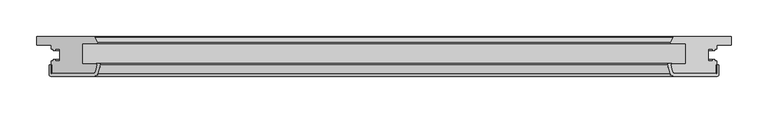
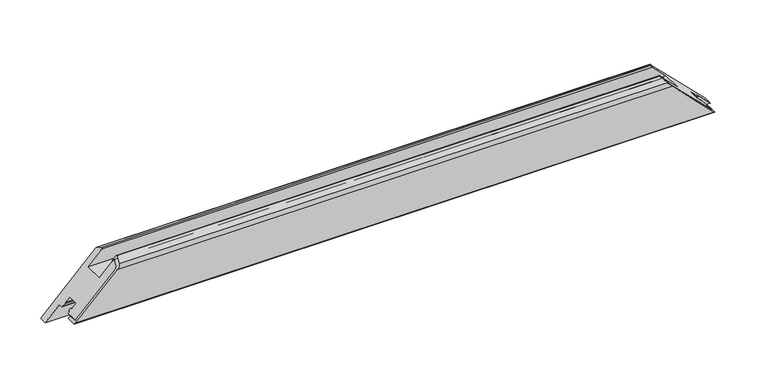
"""IFC4 building model written with IfcOpenShell, lengths in millimetres: proxy geometry, Weiku - Montante - Folha 02.2.01.017 : Weiku - Montante - Folha 02.2.01.017."""

import ifcopenshell
import ifcopenshell.guid

model = None  # the IFC model being written
_history = None  # IfcOwnerHistory: only IFC2X3 demands one
_inside = {}  # id of a spatial element -> (the spatial element, [elements in it])
_under = {}  # id of a project, library or spatial element -> (it, [spatial elements below it])
_declared = {}  # id of a project -> (the project, [libraries it declares])
_typed = {}  # id of a type object -> (the type object, [elements of that type])
_made_of = {}  # id of a material, layer set ... -> (it, [elements and type objects made of it])


def new_model(schema):
    """Start an empty IFC model of exactly this schema.

    Asked for "IFC4X3", IfcOpenShell would pick the latest addendum, in which some entities
    have other attributes; the version numbers below select the first issue.
    IFC2X3 requires an IfcOwnerHistory on every rooted entity: one is made here for all.
    """
    global model, _history
    if schema == "IFC4X3":
        model = ifcopenshell.file(schema_version=(4, 3, 0, 0))
    else:
        model = ifcopenshell.file(schema=schema)
    _inside.clear()
    _under.clear()
    _declared.clear()
    _typed.clear()
    _made_of.clear()
    _history = None
    if model.schema == "IFC2X3":
        org = make("IfcOrganization", Name="unknown")
        user = make(
            "IfcPersonAndOrganization",
            ThePerson=make("IfcPerson", FamilyName="unknown"),
            TheOrganization=org,
        )
        app = make(
            "IfcApplication",
            ApplicationDeveloper=org,
            Version="unknown",
            ApplicationFullName="unknown",
            ApplicationIdentifier="unknown",
        )
        _history = make(
            "IfcOwnerHistory",
            OwningUser=user,
            OwningApplication=app,
            ChangeAction="ADDED",
            CreationDate=0,
        )
    return model


def make(cls, **values):
    """One entity of the class cls with the attributes given. An attribute that is None is left unset."""
    return model.create_entity(
        cls, **{name: value for name, value in values.items() if value is not None}
    )


def rooted(cls, **values):
    """An entity with a GlobalId (a new one), such as an element, a storey or a relation."""
    return make(cls, GlobalId=ifcopenshell.guid.new(), OwnerHistory=_history, **values)


def si_unit(unit_type, name, prefix=None):
    """IfcSIUnit, for example si_unit("LENGTHUNIT", "METRE", prefix="MILLI")."""
    return make("IfcSIUnit", UnitType=unit_type, Prefix=prefix, Name=name)


def assignment(units):
    """IfcUnitAssignment: the units of a project."""
    return None if units is None else make("IfcUnitAssignment", Units=units)


def point(xyz):
    """IfcCartesianPoint."""
    return None if xyz is None else make("IfcCartesianPoint", Coordinates=xyz)


def direction(xyz):
    """IfcDirection."""
    return None if xyz is None else make("IfcDirection", DirectionRatios=xyz)


def frame(location, z_axis=None, x_axis=None):
    """IfcAxis2Placement3D, a coordinate frame: its origin and axes. An axis left out is left unset."""
    return make(
        "IfcAxis2Placement3D",
        Location=point(location),
        Axis=direction(z_axis),
        RefDirection=direction(x_axis),
    )


def origin():
    """The frame at (0, 0, 0) with its axes left unset."""
    return frame((0.0, 0.0, 0.0))


def place(relative_to, where):
    """IfcLocalPlacement: puts the frame where relative to a parent placement (None: the world)."""
    return make(
        "IfcLocalPlacement", PlacementRelTo=relative_to, RelativePlacement=where
    )


def context(
    kind, dimensions, precision=None, world=None, true_north=None, identifier=None
):
    """IfcGeometricRepresentationContext, for example the 3D "Model" context."""
    return make(
        "IfcGeometricRepresentationContext",
        ContextIdentifier=identifier,
        ContextType=kind,
        CoordinateSpaceDimension=dimensions,
        Precision=precision,
        WorldCoordinateSystem=world,
        TrueNorth=true_north,
    )


def project(units=None, contexts=None):
    """IfcProject with its units and contexts."""
    return rooted(
        "IfcProject",
        Name="project",
        RepresentationContexts=contexts,
        UnitsInContext=assignment(units),
    )


def spatial(cls, under=None, at=None, **own):
    """A site, building, storey or space (cls), placed at a placement, below another one or the project."""
    s = rooted(cls, ObjectPlacement=at, **own)
    if under is not None:
        _under.setdefault(under.id(), (under, []))[1].append(s)
    return s


def polyline(points):
    """IfcPolyline through the points."""
    return make("IfcPolyline", Points=[point(p) for p in points])


def ellipse_curve(where, semi_axis1, semi_axis2):
    """IfcEllipse in the frame where."""
    return make(
        "IfcEllipse", Position=where, SemiAxis1=semi_axis1, SemiAxis2=semi_axis2
    )


def shape(context_of_items, identifier, shape_type, items):
    """IfcShapeRepresentation: the items that make up one representation, for example the "Body"."""
    return make(
        "IfcShapeRepresentation",
        ContextOfItems=context_of_items,
        RepresentationIdentifier=identifier,
        RepresentationType=shape_type,
        Items=items,
    )


def source(mapping_origin, context_of_items, identifier, shape_type, items):
    """IfcRepresentationMap: a shape defined once, which mapped items show again and again."""
    return make(
        "IfcRepresentationMap",
        MappingOrigin=mapping_origin,
        MappedRepresentation=shape(context_of_items, identifier, shape_type, items),
    )


def transform(
    local_origin,
    x_axis=None,
    y_axis=None,
    z_axis=None,
    scale=None,
    scale2=None,
    scale3=None,
    uniform=True,
):
    """IfcCartesianTransformationOperator3D, or its non-uniform kind. x_axis, y_axis, z_axis: its Axis1, 2, 3."""
    if uniform:
        return make(
            "IfcCartesianTransformationOperator3D",
            Axis1=direction(x_axis),
            Axis2=direction(y_axis),
            LocalOrigin=point(local_origin),
            Scale=scale,
            Axis3=direction(z_axis),
        )
    return make(
        "IfcCartesianTransformationOperator3DnonUniform",
        Axis1=direction(x_axis),
        Axis2=direction(y_axis),
        LocalOrigin=point(local_origin),
        Scale=scale,
        Axis3=direction(z_axis),
        Scale2=scale2,
        Scale3=scale3,
    )


def mapped(mapping_source, mapping_target):
    """IfcMappedItem: shows the shape of a source again, moved by a transform."""
    return make(
        "IfcMappedItem", MappingSource=mapping_source, MappingTarget=mapping_target
    )


def made_of(thing, what):
    """Note that an element or type object is made of a material, layer set ...; save() writes the relation."""
    if what is not None:
        _made_of.setdefault(what.id(), (what, []))[1].append(thing)
    return thing


def element(
    cls,
    number,
    at=None,
    inside=None,
    cuts=None,
    type_object=None,
    material=None,
    context=None,
    identifier="Body",
    shape_type=None,
    held_by="IfcProductDefinitionShape",
    body=None,
    shapes=None,
    **own,
):
    """One element of the class cls, such as IfcWall. Its Tag is "e" and its number.

    at: its placement. inside: the storey or other place that contains it. cuts: it is an
    opening in that element (IfcRelVoidsElement). A single representation is given by context,
    identifier, shape_type and body (its items); several are given by shapes. held_by: the class
    of the entity that holds the representations. save() writes the other relations.
    """
    e = rooted(cls, Tag="e%d" % number, ObjectPlacement=at, **own)
    if body is not None:
        shapes = [shape(context, identifier, shape_type, body)]
    if shapes is not None:
        e.Representation = make(held_by, Representations=shapes)
    if inside is not None:
        _inside.setdefault(inside.id(), (inside, []))[1].append(e)
    if cuts is not None:
        rooted(
            "IfcRelVoidsElement", RelatingBuildingElement=cuts, RelatedOpeningElement=e
        )
    if type_object is not None:
        _typed.setdefault(type_object.id(), (type_object, []))[1].append(e)
    return made_of(e, material)


def aggregate(whole, parts):
    """IfcRelAggregates: a whole, such as a stair, and the parts it consists of."""
    return rooted("IfcRelAggregates", RelatingObject=whole, RelatedObjects=parts)


def save(model, path):
    """Write the relations noted so far, then the file.

    IfcRelAggregates (storeys below a building ...), IfcRelContainedInSpatialStructure (elements
    in a storey), IfcRelDefinesByType, IfcRelAssociatesMaterial and IfcRelDeclares: one each for
    every whole, place, type object, material and project.
    """
    for whole, parts in _under.values():
        aggregate(whole, parts)
    for where, things in _inside.values():
        rooted(
            "IfcRelContainedInSpatialStructure",
            RelatedElements=things,
            RelatingStructure=where,
        )
    for kind, things in _typed.values():
        rooted("IfcRelDefinesByType", RelatedObjects=things, RelatingType=kind)
    for what, things in _made_of.values():
        rooted("IfcRelAssociatesMaterial", RelatedObjects=things, RelatingMaterial=what)
    for by, libraries in _declared.values():
        rooted("IfcRelDeclares", RelatingContext=by, RelatedDefinitions=libraries)
    model.write(path)


def plane_surface(at):
    """IfcPlane: the flat surface through the origin of the frame at, square to its z axis."""
    return make("IfcPlane", Position=at)


def cylinder_surface(at, radius):
    """IfcCylindricalSurface: all points at the distance radius from the z axis of the frame at."""
    return make("IfcCylindricalSurface", Position=at, Radius=radius)


def revolved_surface(curve, axis_point, axis_direction):
    """IfcSurfaceOfRevolution: the curve turned about the line through axis_point along axis_direction."""
    return make(
        "IfcSurfaceOfRevolution",
        SweptCurve=make("IfcArbitraryOpenProfileDef", ProfileType="CURVE", Curve=curve),
        AxisPosition=make("IfcAxis1Placement", Location=point(axis_point), Axis=direction(axis_direction)),
    )


def advanced_brep(points, edges, surfaces, faces):
    """IfcAdvancedBrep: a solid bounded by faces that lie on surfaces and meet in shared edges.

    An edge is (start, end): straight between two places in points (the first is 0);
    or (start, end, curve); or (start, end, curve, False) where it runs against its curve.
    A face is (place in surfaces, loops), or (place, loops, False) where it looks against
    its surface's normal. A loop lists edges by number (the first is 1), with a minus sign
    where the edge is run from its end to its start. The first loop is the outer one.
    """
    corners = [point(p) for p in points]
    vertices = [make("IfcVertexPoint", VertexGeometry=c) for c in corners]
    made = []
    for start, end, *more in edges:
        made.append(
            make(
                "IfcEdgeCurve",
                EdgeStart=vertices[start],
                EdgeEnd=vertices[end],
                EdgeGeometry=more[0] if more else make("IfcPolyline", Points=[corners[start], corners[end]]),
                SameSense=more[1] if len(more) > 1 else True,
            )
        )
    hull = []
    for where, loops, *sense in faces:
        bounds = []
        for j, loop in enumerate(loops):
            ring = [make("IfcOrientedEdge", EdgeElement=made[abs(k) - 1], Orientation=k > 0) for k in loop]
            bounds.append(
                make(
                    "IfcFaceOuterBound" if j == 0 else "IfcFaceBound",
                    Bound=make("IfcEdgeLoop", EdgeList=ring),
                    Orientation=True,
                )
            )
        hull.append(make("IfcAdvancedFace", Bounds=bounds, FaceSurface=surfaces[where], SameSense=sense[0] if sense else True))
    return make("IfcAdvancedBrep", Outer=make("IfcClosedShell", CfsFaces=hull))


def generic_models_3872e192(model_context):
    return source(origin(), model_context, "Body", "AdvancedBrep", [
        advanced_brep(
        [(452.0, -50.0, 20.0), (-452.0, -50.0, 20.0), (-394.9997332, -50.0, 77.0002668), (394.9997332, -50.0, 77.0002668), (-392.1019557, -47.7764571, 79.8980443), (392.1019557, -47.7764571, 79.8980443), (-389.5170371, -38.1294095, 82.4829629), (389.5170371, -38.1294095, 82.4829629), (-390.0, -37.5, 82.0), (390.0, -37.5, 82.0), (-390.8560102, -37.5, 81.1439898), (390.8560102, -37.5, 81.1439898), (-390.8560102, -36.5, 81.1439898), (390.8560102, -36.5, 81.1439898), (-386.2425588, -36.5, 85.7574412), (386.2425588, -36.5, 85.7574412), (-385.2766329, -37.758819, 86.7233671), (385.2766329, -37.758819, 86.7233671), (-388.6354501, -50.2940952, 83.3645499), (388.6354501, -50.2940952, 83.3645499), (-393.4650792, -54.0, 78.5349208), (393.4650792, -54.0, 78.5349208), (-453.0, -54.0, 19.0), (453.0, -54.0, 19.0), (-455.0, -52.0, 17.0), (455.0, -52.0, 17.0), (-455.0, -38.5, 17.0), (455.0, -38.5, 17.0), (-452.0, -38.5, 20.0), (452.0, -38.5, 20.0)],
        [
            (0, 1),
            (1, 2),
            (2, 3),
            (3, 0),
            (2, 4, ellipse_curve(frame((-394.9997332, -47.0, 77.0002668), z_axis=(-0.7071067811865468, 0.0, 0.7071067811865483), x_axis=(0.7071067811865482, 0.0, 0.7071067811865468)), 4.2426407, 3.0)),
            (4, 5),
            (5, 3, ellipse_curve(frame((394.9997332, -47.0, 77.0002668), z_axis=(0.7071067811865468, 0.0, 0.7071067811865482), x_axis=(0.7071067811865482, 0.0, -0.7071067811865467)), 4.2426407, 3.0)),
            (4, 6),
            (6, 7),
            (7, 5),
            (6, 8, ellipse_curve(frame((-390.0, -38.0, 82.0), z_axis=(-0.7071067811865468, 0.0, 0.7071067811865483), x_axis=(0.7071067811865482, 0.0, 0.7071067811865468)), 0.7071068, 0.5)),
            (8, 9),
            (9, 7, ellipse_curve(frame((390.0, -38.0, 82.0), z_axis=(0.7071067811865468, 0.0, 0.7071067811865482), x_axis=(0.7071067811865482, 0.0, -0.7071067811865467)), 0.7071068, 0.5)),
            (8, 10),
            (10, 11),
            (11, 9),
            (10, 12, ellipse_curve(frame((-390.8560102, -37.0, 81.1439898), z_axis=(0.7071067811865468, 0.0, -0.7071067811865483), x_axis=(-0.7071067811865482, 0.0, -0.7071067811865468)), 0.7071068, 0.5)),
            (12, 13),
            (13, 11, ellipse_curve(frame((390.8560102, -37.0, 81.1439898), z_axis=(-0.7071067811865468, 0.0, -0.7071067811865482), x_axis=(-0.7071067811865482, 0.0, 0.7071067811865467)), 0.7071068, 0.5)),
            (12, 14),
            (14, 15),
            (15, 13),
            (14, 16, ellipse_curve(frame((-386.2425588, -37.5, 85.7574412), z_axis=(0.7071067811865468, 0.0, -0.7071067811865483), x_axis=(-0.7071067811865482, 0.0, -0.7071067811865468)), 1.4142136, 1.0)),
            (16, 17),
            (17, 15, ellipse_curve(frame((386.2425588, -37.5, 85.7574412), z_axis=(-0.7071067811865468, 0.0, -0.7071067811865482), x_axis=(-0.7071067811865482, 0.0, 0.7071067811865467)), 1.4142136, 1.0)),
            (16, 18),
            (18, 19),
            (19, 17),
            (18, 20, ellipse_curve(frame((-393.4650792, -49.0, 78.5349208), z_axis=(0.7071067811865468, 0.0, -0.7071067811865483), x_axis=(-0.7071067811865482, 0.0, -0.7071067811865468)), 7.0710678, 5.0)),
            (20, 21),
            (21, 19, ellipse_curve(frame((393.4650792, -49.0, 78.5349208), z_axis=(-0.7071067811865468, 0.0, -0.7071067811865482), x_axis=(-0.7071067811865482, 0.0, 0.7071067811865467)), 7.0710678, 5.0)),
            (20, 22),
            (22, 23),
            (23, 21),
            (22, 24, ellipse_curve(frame((-453.0, -52.0, 19.0), z_axis=(0.7071067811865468, 0.0, -0.7071067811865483), x_axis=(-0.7071067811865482, 0.0, -0.7071067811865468)), 2.8284271, 2.0)),
            (24, 25),
            (25, 23, ellipse_curve(frame((453.0, -52.0, 19.0), z_axis=(-0.7071067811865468, 0.0, -0.7071067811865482), x_axis=(-0.7071067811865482, 0.0, 0.7071067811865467)), 2.8284271, 2.0)),
            (24, 26),
            (26, 27),
            (27, 25),
            (26, 28),
            (28, 29),
            (29, 27),
            (28, 1),
            (0, 29),
        ],
        [
            plane_surface(frame((-492.0, -50.0, 20.0), z_axis=(0.0, 1.0, 0.0), x_axis=(1.0, 0.0, 0.0))),
            revolved_surface(polyline([(397.99973320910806, -50.0, 77.0002668), (-397.99973320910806, -50.0, 77.0002668)]), (-492.0, -47.0, 77.0002668), (1.0, 0.0, 0.0)),
            plane_surface(frame((-492.0, -47.7764571, 79.8980443), z_axis=(0.0, 0.2588190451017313, -0.9659258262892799), x_axis=(1.0, 0.0, 0.0))),
            revolved_surface(polyline([(390.50000001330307, -38.5, 82.0), (-390.5000000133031, -38.5, 82.0)]), (-492.0, -38.0, 82.0), (1.0, 0.0, 0.0)),
            plane_surface(frame((-492.0, -37.5, 82.0), z_axis=(0.0, -1.0, 0.0), x_axis=(1.0, 0.0, 0.0))),
            cylinder_surface(frame((-492.0, -37.0, 81.1439898), z_axis=(-1.0, 0.0, 0.0), x_axis=(0.0, -1.0, 0.0)), 0.5),
            plane_surface(frame((-492.0, -36.5, 81.1439898), z_axis=(0.0, 1.0, 0.0), x_axis=(1.0, 0.0, 0.0))),
            cylinder_surface(frame((-492.0, -37.5, 85.7574412), z_axis=(-1.0, 0.0, 0.0), x_axis=(0.0, -1.0, 0.0)), 1.0),
            plane_surface(frame((-492.0, -37.758819, 86.7233671), z_axis=(0.0, -0.25881904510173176, 0.9659258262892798), x_axis=(1.0, 0.0, 0.0))),
            cylinder_surface(frame((-492.0, -49.0, 78.5349208), z_axis=(-1.0, 0.0, 0.0), x_axis=(0.0, -1.0, 0.0)), 5.0),
            plane_surface(frame((-492.0, -54.0, 78.5349208), z_axis=(0.0, -1.0, 0.0), x_axis=(1.0, 0.0, 0.0))),
            cylinder_surface(frame((-492.0, -52.0, 19.0), z_axis=(-1.0, 0.0, 0.0), x_axis=(0.0, -1.0, 0.0)), 2.0),
            plane_surface(frame((-492.0, -52.0, 17.0), z_axis=(0.0, 0.0, -1.0), x_axis=(1.0, 0.0, 0.0))),
            plane_surface(frame((-492.0, -38.5, 17.0), z_axis=(0.0, 1.0, 0.0), x_axis=(1.0, 0.0, 0.0))),
            plane_surface(frame((-492.0, -38.5, 20.0), z_axis=(0.0, 0.0, 1.0), x_axis=(1.0, 0.0, 0.0))),
            plane_surface(frame((382.0, 0.0, 90.0), z_axis=(0.7071067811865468, 0.0, 0.7071067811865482), x_axis=(0.0, -1.0, 0.0))),
            plane_surface(frame((-500.2842712, 0.0, -28.2842712), z_axis=(-0.7071067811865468, 0.0, 0.7071067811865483), x_axis=(0.0, -1.0, 0.0))),
        ],
        [
            (0, [[1, 2, 3, 4]]),
            (1, [[-3, 5, 6, 7]]),
            (2, [[-6, 8, 9, 10]]),
            (3, [[-9, 11, 12, 13]]),
            (4, [[-12, 14, 15, 16]]),
            (5, [[-15, 17, 18, 19]]),
            (6, [[-18, 20, 21, 22]]),
            (7, [[-21, 23, 24, 25]]),
            (8, [[-24, 26, 27, 28]]),
            (9, [[-27, 29, 30, 31]]),
            (10, [[-30, 32, 33, 34]]),
            (11, [[-33, 35, 36, 37]]),
            (12, [[-36, 38, 39, 40]]),
            (13, [[-39, 41, 42, 43]]),
            (14, [[-42, 44, -1, 45]]),
            (15, [[-7, -10, -13, -16, -19, -22, -25, -28, -31, -34, -37, -40, -43, -45, -4]]),
            (16, [[-44, -41, -38, -35, -32, -29, -26, -23, -20, -17, -14, -11, -8, -5, -2]]),
        ],
    ),
        advanced_brep(
        [(-452.0, -50.0, 20.0), (452.0, -50.0, 20.0), (394.9997332, -50.0, 77.0002668), (-394.9997332, -50.0, 77.0002668), (-472.0, 0.0, 0.0), (-393.9872264, 0.0, 78.0127736), (393.9872264, 0.0, 78.0127736), (472.0, 0.0, 0.0), (-392.1019557, -47.7764571, 79.8980443), (-389.5170371, -38.1294095, 82.4829629), (-390.0, -37.5, 82.0), (-410.5, -37.5, 61.5), (-410.5, -9.5, 61.5), (-390.7134285, -9.5, 81.2865715), (-389.5512796, -7.617411, 82.4487204), (-393.0932657, -0.5518546, 78.9067343), (-472.0, -11.5, 0.0), (-452.0, -11.5, 20.0), (-452.0, -16.9, 20.0), (-449.8, -16.9, 22.2), (-449.8, -18.9, 22.2), (-447.0, -18.9, 25.0), (-447.0, -16.9, 25.0), (-440.5, -16.9, 31.5), (-440.5, -33.1, 31.5), (-447.0, -33.1, 25.0), (-447.0, -31.1, 25.0), (-449.8, -31.1, 22.2), (-449.8, -33.1, 22.2), (-452.0, -33.1, 20.0), (452.0, -33.1, 20.0), (449.8, -33.1, 22.2), (449.8, -31.1, 22.2), (447.0, -31.1, 25.0), (447.0, -33.1, 25.0), (440.5, -33.1, 31.5), (440.5, -16.9, 31.5), (447.0, -16.9, 25.0), (447.0, -18.9, 25.0), (449.8, -18.9, 22.2), (449.8, -16.9, 22.2), (452.0, -16.9, 20.0), (452.0, -11.5, 20.0), (472.0, -11.5, 0.0), (393.0932657, -0.5518546, 78.9067343), (389.5512796, -7.617411, 82.4487204), (390.7134285, -9.5, 81.2865715), (410.5, -9.5, 61.5), (410.5, -37.5, 61.5), (390.0, -37.5, 82.0), (389.5170371, -38.1294095, 82.4829629), (392.1019557, -47.7764571, 79.8980443)],
        [
            (0, 1),
            (1, 2),
            (2, 3),
            (3, 0),
            (4, 5),
            (5, 6),
            (6, 7),
            (7, 4),
            (3, 8, ellipse_curve(frame((-394.9997332, -47.0, 77.0002668), z_axis=(-0.7071067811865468, 0.0, 0.7071067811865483), x_axis=(-0.7071067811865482, 0.0, -0.7071067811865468)), 4.2426407, 3.0)),
            (8, 9),
            (9, 10, ellipse_curve(frame((-390.0, -38.0, 82.0), z_axis=(-0.7071067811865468, 0.0, 0.7071067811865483), x_axis=(-0.7071067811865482, 0.0, -0.7071067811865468)), 0.7071068, 0.5)),
            (10, 11),
            (11, 12),
            (12, 13),
            (13, 14, ellipse_curve(frame((-390.7134285, -8.2, 81.2865715), z_axis=(-0.7071067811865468, 0.0, 0.7071067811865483), x_axis=(-0.7071067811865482, 0.0, -0.7071067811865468)), 1.8384776, 1.3)),
            (14, 15),
            (15, 5, ellipse_curve(frame((-393.9872264, -1.0, 78.0127736), z_axis=(-0.7071067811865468, 0.0, 0.7071067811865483), x_axis=(-0.7071067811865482, 0.0, -0.7071067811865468)), 1.4142136, 1.0)),
            (4, 16),
            (16, 17),
            (17, 18),
            (18, 19),
            (19, 20),
            (20, 21),
            (21, 22),
            (22, 23),
            (23, 24),
            (24, 25),
            (25, 26),
            (26, 27),
            (27, 28),
            (28, 29),
            (29, 0),
            (1, 30),
            (30, 31),
            (31, 32),
            (32, 33),
            (33, 34),
            (34, 35),
            (35, 36),
            (36, 37),
            (37, 38),
            (38, 39),
            (39, 40),
            (40, 41),
            (41, 42),
            (42, 43),
            (43, 7),
            (6, 44, ellipse_curve(frame((393.9872264, -1.0, 78.0127736), z_axis=(0.7071067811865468, 0.0, 0.7071067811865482), x_axis=(-0.7071067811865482, 0.0, 0.7071067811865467)), 1.4142136, 1.0)),
            (44, 45),
            (45, 46, ellipse_curve(frame((390.7134285, -8.2, 81.2865715), z_axis=(0.7071067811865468, 0.0, 0.7071067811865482), x_axis=(-0.7071067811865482, 0.0, 0.7071067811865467)), 1.8384776, 1.3)),
            (46, 47),
            (47, 48),
            (48, 49),
            (49, 50, ellipse_curve(frame((390.0, -38.0, 82.0), z_axis=(0.7071067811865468, 0.0, 0.7071067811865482), x_axis=(-0.7071067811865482, 0.0, 0.7071067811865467)), 0.7071068, 0.5)),
            (50, 51),
            (51, 2, ellipse_curve(frame((394.9997332, -47.0, 77.0002668), z_axis=(0.7071067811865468, 0.0, 0.7071067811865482), x_axis=(-0.7071067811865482, 0.0, 0.7071067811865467)), 4.2426407, 3.0)),
            (15, 44),
            (14, 45),
            (13, 46),
            (12, 47),
            (11, 48),
            (10, 49),
            (9, 50),
            (8, 51),
            (29, 30),
            (28, 31),
            (27, 32),
            (26, 33),
            (25, 34),
            (24, 35),
            (23, 36),
            (22, 37),
            (21, 38),
            (20, 39),
            (19, 40),
            (18, 41),
            (17, 42),
            (16, 43),
        ],
        [
            plane_surface(frame((-472.0, -50.0, 77.0002668), z_axis=(0.0, -1.0, 0.0), x_axis=(1.0, 0.0, 0.0))),
            plane_surface(frame((-472.0, 0.0, 0.0), z_axis=(0.0, 1.0, 0.0), x_axis=(1.0, 0.0, 0.0))),
            plane_surface(frame((-500.2842712, 0.0, -28.2842712), z_axis=(-0.7071067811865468, 0.0, 0.7071067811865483), x_axis=(0.0, -1.0, 0.0))),
            plane_surface(frame((382.0, 0.0, 90.0), z_axis=(0.7071067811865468, 0.0, 0.7071067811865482), x_axis=(0.0, -1.0, 0.0))),
            cylinder_surface(frame((-472.0, -1.0, 78.0127736), z_axis=(-1.0, 0.0, 0.0), x_axis=(0.0, -1.0, 0.0)), 1.0),
            plane_surface(frame((-472.0, -0.5518546, 78.9067343), z_axis=(0.0, 0.4481453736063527, 0.8939606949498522), x_axis=(1.0, 0.0, 0.0))),
            cylinder_surface(frame((-472.0, -8.2, 81.2865715), z_axis=(-1.0, 0.0, 0.0), x_axis=(0.0, -1.0, 0.0)), 1.3),
            plane_surface(frame((-472.0, -9.5, 81.2865715), z_axis=(0.0, -1.0, 0.0), x_axis=(1.0, 0.0, 0.0))),
            plane_surface(frame((-472.0, -9.5, 61.5), z_axis=(0.0, 0.0, 1.0), x_axis=(1.0, 0.0, 0.0))),
            plane_surface(frame((-472.0, -37.5, 61.5), z_axis=(0.0, 1.0, 0.0), x_axis=(1.0, 0.0, 0.0))),
            cylinder_surface(frame((-472.0, -38.0, 82.0), z_axis=(-1.0, 0.0, 0.0), x_axis=(0.0, -1.0, 0.0)), 0.5),
            plane_surface(frame((-472.0, -38.1294095, 82.4829629), z_axis=(0.0, -0.2588190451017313, 0.9659258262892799), x_axis=(1.0, 0.0, 0.0))),
            cylinder_surface(frame((-472.0, -47.0, 77.0002668), z_axis=(-1.0, 0.0, 0.0), x_axis=(0.0, -1.0, 0.0)), 3.0),
            plane_surface(frame((-472.0, -50.0, 20.0), z_axis=(0.0, 0.0, -1.0), x_axis=(1.0, 0.0, 0.0))),
            plane_surface(frame((-472.0, -33.1, 20.0), z_axis=(0.0, 1.0, 0.0), x_axis=(1.0, 0.0, 0.0))),
            plane_surface(frame((-472.0, -33.1, 22.2), z_axis=(0.0, 0.0, -1.0), x_axis=(1.0, 0.0, 0.0))),
            plane_surface(frame((-472.0, -31.1, 22.2), z_axis=(0.0, 1.0, 0.0), x_axis=(1.0, 0.0, 0.0))),
            plane_surface(frame((-472.0, -31.1, 25.0), z_axis=(0.0, 0.0, 1.0), x_axis=(1.0, 0.0, 0.0))),
            plane_surface(frame((-472.0, -33.1, 25.0), z_axis=(0.0, 1.0, 0.0), x_axis=(1.0, 0.0, 0.0))),
            plane_surface(frame((-472.0, -33.1, 31.5), z_axis=(0.0, 0.0, -1.0), x_axis=(1.0, 0.0, 0.0))),
            plane_surface(frame((-472.0, -16.9, 31.5), z_axis=(0.0, -1.0, 0.0), x_axis=(1.0, 0.0, 0.0))),
            plane_surface(frame((-472.0, -16.9, 25.0), z_axis=(0.0, 0.0, 1.0), x_axis=(1.0, 0.0, 0.0))),
            plane_surface(frame((-472.0, -18.9, 25.0), z_axis=(0.0, -1.0, 0.0), x_axis=(1.0, 0.0, 0.0))),
            plane_surface(frame((-472.0, -18.9, 22.2), z_axis=(0.0, 0.0, -1.0), x_axis=(1.0, 0.0, 0.0))),
            plane_surface(frame((-472.0, -16.9, 22.2), z_axis=(0.0, -1.0, 0.0), x_axis=(1.0, 0.0, 0.0))),
            plane_surface(frame((-472.0, -16.9, 20.0), z_axis=(0.0, 0.0, -1.0), x_axis=(1.0, 0.0, 0.0))),
            plane_surface(frame((-472.0, -11.5, 20.0), z_axis=(0.0, -1.0, 0.0), x_axis=(1.0, 0.0, 0.0))),
            plane_surface(frame((-472.0, -11.5, 0.0), z_axis=(0.0, 0.0, -1.0), x_axis=(1.0, 0.0, 0.0))),
        ],
        [
            (0, [[1, 2, 3, 4]]),
            (1, [[5, 6, 7, 8]]),
            (2, [[9, 10, 11, 12, 13, 14, 15, 16, 17, -5, 18, 19, 20, 21, 22, 23, 24, 25, 26, 27, 28, 29, 30, 31, 32, -4]]),
            (3, [[33, 34, 35, 36, 37, 38, 39, 40, 41, 42, 43, 44, 45, 46, 47, -7, 48, 49, 50, 51, 52, 53, 54, 55, 56, -2]]),
            (4, [[57, -48, -6, -17]]),
            (5, [[58, -49, -57, -16]]),
            (6, [[59, -50, -58, -15]]),
            (7, [[60, -51, -59, -14]]),
            (8, [[61, -52, -60, -13]]),
            (9, [[62, -53, -61, -12]]),
            (10, [[63, -54, -62, -11]]),
            (11, [[64, -55, -63, -10]]),
            (12, [[-3, -56, -64, -9]]),
            (13, [[65, -33, -1, -32]]),
            (14, [[66, -34, -65, -31]]),
            (15, [[67, -35, -66, -30]]),
            (16, [[68, -36, -67, -29]]),
            (17, [[69, -37, -68, -28]]),
            (18, [[70, -38, -69, -27]]),
            (19, [[71, -39, -70, -26]]),
            (20, [[72, -40, -71, -25]]),
            (21, [[73, -41, -72, -24]]),
            (22, [[74, -42, -73, -23]]),
            (23, [[75, -43, -74, -22]]),
            (24, [[76, -44, -75, -21]]),
            (25, [[77, -45, -76, -20]]),
            (26, [[-46, -77, -19, 78]]),
            (27, [[-47, -78, -18, -8]]),
        ],
    ),
    ])


if __name__ == "__main__":
    model = new_model("IFC4")
    model_context = context("Model", 3, world=origin())
    ifc_project = project(units=[si_unit("LENGTHUNIT", "METRE", prefix="MILLI")], contexts=[model_context])
    site = spatial("IfcSite", under=ifc_project)
    building = spatial("IfcBuilding", under=site)
    placement = place(None, origin())
    generic_models_shape = generic_models_3872e192(model_context)
    element("IfcBuildingElementProxy", 1, Name="Weiku - Montante - Folha 02.2.01.017 : Weiku - Montante - Folha 02.2.01.017", ObjectType="Weiku - Montante - Folha 02.2.01.017 : Weiku - Montante - Folha 02.2.01.017", at=placement, inside=building, context=model_context, shape_type="MappedRepresentation", body=[
        mapped(generic_models_shape, transform((0.0, 0.0, 0.0), x_axis=(1.0, 0.0, 0.0), y_axis=(0.0, 1.0, 0.0), z_axis=(0.0, 0.0, 1.0))),
    ])
    save(model, "model.ifc")
